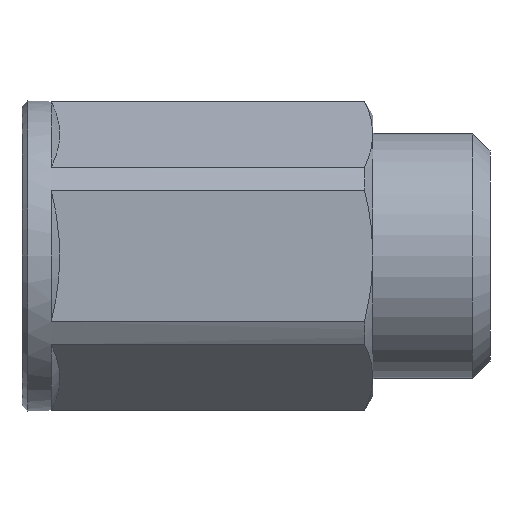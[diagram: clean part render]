
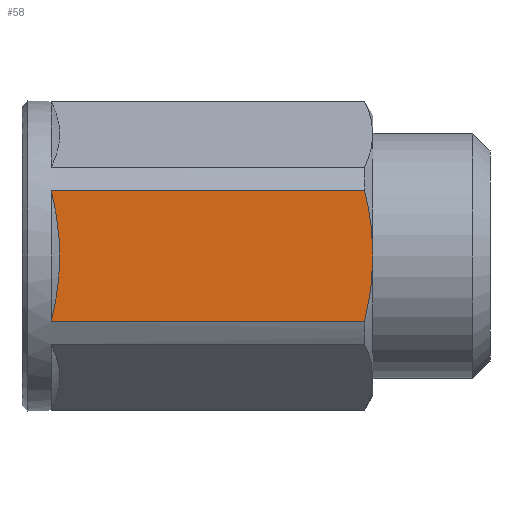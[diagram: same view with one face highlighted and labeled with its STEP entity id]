
A CAD part, left-side view. The second image highlights one B-rep face of the part: STEP entity #58.
In plain terms, the highlighted planar face has unit normal (-1, 0, 0).
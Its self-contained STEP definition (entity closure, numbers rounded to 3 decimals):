
#58=ADVANCED_FACE('',(#201),#203,.T.);
#201=FACE_BOUND('',#202,.T.);
#202=EDGE_LOOP('',(#391,#392,#393,#394,#395));
#203=PLANE('',#204);
#204=AXIS2_PLACEMENT_3D('',#205,#206,#207);
#205=CARTESIAN_POINT('',(-12.,0.,-6.928));
#206=DIRECTION('',(-1.,0.,0.));
#207=DIRECTION('',(0.,0.,1.));
#391=ORIENTED_EDGE('',*,*,#503,.F.);
#392=ORIENTED_EDGE('',*,*,#488,.T.);
#393=ORIENTED_EDGE('',*,*,#504,.T.);
#394=ORIENTED_EDGE('',*,*,#505,.T.);
#395=ORIENTED_EDGE('',*,*,#491,.T.);
#488=EDGE_CURVE('',#576,#574,#577,.F.);
#491=EDGE_CURVE('',#582,#580,#583,.T.);
#503=EDGE_CURVE('',#576,#580,#605,.T.);
#504=EDGE_CURVE('',#574,#606,#607,.T.);
#505=EDGE_CURVE('',#606,#582,#608,.T.);
#574=VERTEX_POINT('',#748);
#576=VERTEX_POINT('',#753);
#577=LINE('',#754,#755);
#580=VERTEX_POINT('',#762);
#582=VERTEX_POINT('',#767);
#583=LINE('',#768,#769);
#605=B_SPLINE_CURVE_WITH_KNOTS('',3,
(#820,#821,#822,#823,#824,#825,#826,#827,#828,#829,#830,#831,#832,#833,#834,#835,
#836,#837,#838,#839,#840,#841,#842,#843,#844,#845,#846,#847,#848,#849,#850,#851,
#852,#853,#854,#855,#856,#857,#858,#859,#860,#861,#862,#863,#864,#865,#866,#867),
.UNSPECIFIED.,.F.,.F.,
(4,1,1,1,1,1,1,1,1,1,1,1,1,1,1,1,1,1,1,1,1,1,1,1,1,1,1,1,1,1,1,1,1,1,1,1,1,1,1,1,
1,1,1,1,1,4),
(0.,0.017,0.033,0.05,0.062,
0.067,0.084,0.102,0.119,0.137,
0.156,0.177,0.199,0.201,0.24,
0.279,0.32,0.341,0.35,0.378,
0.405,0.432,0.457,0.46,0.488,
0.5,0.517,0.546,0.576,0.606,
0.616,0.635,0.665,0.696,0.726,
0.756,0.787,0.794,0.817,0.847,
0.878,0.908,0.931,0.939,0.969,
1.),
.UNSPECIFIED.);
#606=VERTEX_POINT('',#868);
#607=B_SPLINE_CURVE_WITH_KNOTS('',3,
(#869,#870,#871,#872,#873,#874,#875,#876,#877,#878,#879,#880,#881,#882,#883,#884,
#885,#886,#887,#888,#889,#890,#891,#892,#893,#894,#895,#896),
.UNSPECIFIED.,.F.,.F.,
(4,1,1,1,1,1,1,1,1,1,1,1,1,1,1,1,1,1,1,1,1,1,1,1,1,4),
(0.,0.023,0.081,0.097,0.174,0.195,
0.277,0.336,0.34,0.396,0.458,
0.516,0.546,0.561,0.61,0.659,
0.711,0.75,0.752,0.791,0.832,
0.873,0.915,0.926,0.958,1.),
.UNSPECIFIED.);
#608=B_SPLINE_CURVE_WITH_KNOTS('',3,
(#897,#898,#899,#900,#901,#902,#903,#904,#905,#906,#907,#908,#909,#910,#911,#912,
#913,#914,#915,#916,#917,#918,#919,#920,#921,#922),
.UNSPECIFIED.,.F.,.F.,
(4,1,1,1,1,1,1,1,1,1,1,1,1,1,1,1,1,1,1,1,1,1,1,4),
(0.,0.047,0.094,0.14,0.174,0.186,
0.231,0.275,0.317,0.358,0.399,
0.443,0.49,0.499,0.543,0.6,
0.677,0.73,0.762,0.85,0.894,
0.926,0.988,1.),
.UNSPECIFIED.);
#748=CARTESIAN_POINT('',(-12.,0.722,-5.618));
#753=CARTESIAN_POINT('',(-12.,27.5,-5.618));
#754=CARTESIAN_POINT('',(-12.,0.722,-5.618));
#755=VECTOR('',#756,1.);
#756=DIRECTION('',(0.,1.,0.));
#762=CARTESIAN_POINT('',(-12.,27.5,5.618));
#767=CARTESIAN_POINT('',(-12.,0.722,5.618));
#768=CARTESIAN_POINT('',(-12.,0.722,5.618));
#769=VECTOR('',#770,1.);
#770=DIRECTION('',(0.,1.,0.));
#820=CARTESIAN_POINT('',(-12.,27.5,-5.618));
#821=CARTESIAN_POINT('',(-12.,27.485,-5.557));
#822=CARTESIAN_POINT('',(-12.,27.456,-5.435));
#823=CARTESIAN_POINT('',(-12.,27.412,-5.251));
#824=CARTESIAN_POINT('',(-12.,27.374,-5.083));
#825=CARTESIAN_POINT('',(-12.,27.346,-4.958));
#826=CARTESIAN_POINT('',(-12.,27.319,-4.831));
#827=CARTESIAN_POINT('',(-12.,27.287,-4.685));
#828=CARTESIAN_POINT('',(-12.,27.247,-4.491));
#829=CARTESIAN_POINT('',(-12.,27.208,-4.293));
#830=CARTESIAN_POINT('',(-12.,27.17,-4.092));
#831=CARTESIAN_POINT('',(-12.,27.131,-3.877));
#832=CARTESIAN_POINT('',(-12.,27.091,-3.649));
#833=CARTESIAN_POINT('',(-12.,27.063,-3.478));
#834=CARTESIAN_POINT('',(-12.,27.027,-3.245));
#835=CARTESIAN_POINT('',(-12.,26.982,-2.944));
#836=CARTESIAN_POINT('',(-12.,26.925,-2.499));
#837=CARTESIAN_POINT('',(-12.,26.884,-2.117));
#838=CARTESIAN_POINT('',(-12.,26.86,-1.85));
#839=CARTESIAN_POINT('',(-12.,26.842,-1.631));
#840=CARTESIAN_POINT('',(-12.,26.824,-1.39));
#841=CARTESIAN_POINT('',(-12.,26.806,-1.08));
#842=CARTESIAN_POINT('',(-12.,26.792,-0.781));
#843=CARTESIAN_POINT('',(-12.,26.786,-0.573));
#844=CARTESIAN_POINT('',(-12.,26.781,-0.359));
#845=CARTESIAN_POINT('',(-12.,26.779,-0.196));
#846=CARTESIAN_POINT('',(-12.,26.778,0.022));
#847=CARTESIAN_POINT('',(-12.,26.779,0.242));
#848=CARTESIAN_POINT('',(-12.,26.784,0.529));
#849=CARTESIAN_POINT('',(-12.,26.795,0.863));
#850=CARTESIAN_POINT('',(-12.,26.808,1.125));
#851=CARTESIAN_POINT('',(-12.,26.822,1.349));
#852=CARTESIAN_POINT('',(-12.,26.837,1.576));
#853=CARTESIAN_POINT('',(-12.,26.862,1.877));
#854=CARTESIAN_POINT('',(-12.,26.895,2.218));
#855=CARTESIAN_POINT('',(-12.,26.933,2.559));
#856=CARTESIAN_POINT('',(-12.,26.977,2.901));
#857=CARTESIAN_POINT('',(-12.,27.014,3.158));
#858=CARTESIAN_POINT('',(-12.,27.049,3.386));
#859=CARTESIAN_POINT('',(-12.,27.085,3.613));
#860=CARTESIAN_POINT('',(-12.,27.139,3.925));
#861=CARTESIAN_POINT('',(-12.,27.202,4.265));
#862=CARTESIAN_POINT('',(-12.,27.264,4.576));
#863=CARTESIAN_POINT('',(-12.,27.312,4.802));
#864=CARTESIAN_POINT('',(-12.,27.361,5.027));
#865=CARTESIAN_POINT('',(-12.,27.419,5.281));
#866=CARTESIAN_POINT('',(-12.,27.473,5.506));
#867=CARTESIAN_POINT('',(-12.,27.5,5.618));
#868=CARTESIAN_POINT('',(-12.,0.,0.));
#869=CARTESIAN_POINT('',(-12.,0.722,-5.618));
#870=CARTESIAN_POINT('',(-12.,0.711,-5.575));
#871=CARTESIAN_POINT('',(-12.,0.675,-5.426));
#872=CARTESIAN_POINT('',(-12.,0.633,-5.248));
#873=CARTESIAN_POINT('',(-12.,0.57,-4.97));
#874=CARTESIAN_POINT('',(-12.,0.524,-4.759));
#875=CARTESIAN_POINT('',(-12.,0.455,-4.425));
#876=CARTESIAN_POINT('',(-12.,0.397,-4.124));
#877=CARTESIAN_POINT('',(-12.,0.348,-3.853));
#878=CARTESIAN_POINT('',(-12.,0.31,-3.632));
#879=CARTESIAN_POINT('',(-12.,0.273,-3.405));
#880=CARTESIAN_POINT('',(-12.,0.223,-3.076));
#881=CARTESIAN_POINT('',(-12.,0.185,-2.793));
#882=CARTESIAN_POINT('',(-12.,0.16,-2.599));
#883=CARTESIAN_POINT('',(-12.,0.14,-2.424));
#884=CARTESIAN_POINT('',(-12.,0.116,-2.211));
#885=CARTESIAN_POINT('',(-12.,0.088,-1.929));
#886=CARTESIAN_POINT('',(-12.,0.066,-1.664));
#887=CARTESIAN_POINT('',(-12.,0.053,-1.49));
#888=CARTESIAN_POINT('',(-12.,0.043,-1.339));
#889=CARTESIAN_POINT('',(-12.,0.033,-1.185));
#890=CARTESIAN_POINT('',(-12.,0.021,-0.954));
#891=CARTESIAN_POINT('',(-12.,0.012,-0.718));
#892=CARTESIAN_POINT('',(-12.,0.007,-0.541));
#893=CARTESIAN_POINT('',(-12.,0.003,-0.381));
#894=CARTESIAN_POINT('',(-12.,0.001,-0.221));
#895=CARTESIAN_POINT('',(-12.,0.,-0.08));
#896=CARTESIAN_POINT('',(-12.,0.,0.));
#897=CARTESIAN_POINT('',(-12.,0.,0.));
#898=CARTESIAN_POINT('',(-12.,0.,0.089));
#899=CARTESIAN_POINT('',(-12.,0.001,0.266));
#900=CARTESIAN_POINT('',(-12.,0.006,0.532));
#901=CARTESIAN_POINT('',(-12.,0.014,0.771));
#902=CARTESIAN_POINT('',(-12.,0.021,0.945));
#903=CARTESIAN_POINT('',(-12.,0.03,1.117));
#904=CARTESIAN_POINT('',(-12.,0.041,1.308));
#905=CARTESIAN_POINT('',(-12.,0.058,1.556));
#906=CARTESIAN_POINT('',(-12.,0.077,1.797));
#907=CARTESIAN_POINT('',(-12.,0.098,2.032));
#908=CARTESIAN_POINT('',(-12.,0.122,2.268));
#909=CARTESIAN_POINT('',(-12.,0.15,2.515));
#910=CARTESIAN_POINT('',(-12.,0.173,2.702));
#911=CARTESIAN_POINT('',(-12.,0.198,2.891));
#912=CARTESIAN_POINT('',(-12.,0.226,3.098));
#913=CARTESIAN_POINT('',(-12.,0.277,3.432));
#914=CARTESIAN_POINT('',(-12.,0.335,3.78));
#915=CARTESIAN_POINT('',(-12.,0.39,4.082));
#916=CARTESIAN_POINT('',(-12.,0.451,4.403));
#917=CARTESIAN_POINT('',(-12.,0.513,4.706));
#918=CARTESIAN_POINT('',(-12.,0.579,5.008));
#919=CARTESIAN_POINT('',(-12.,0.637,5.264));
#920=CARTESIAN_POINT('',(-12.,0.683,5.46));
#921=CARTESIAN_POINT('',(-12.,0.716,5.597));
#922=CARTESIAN_POINT('',(-12.,0.722,5.618));
